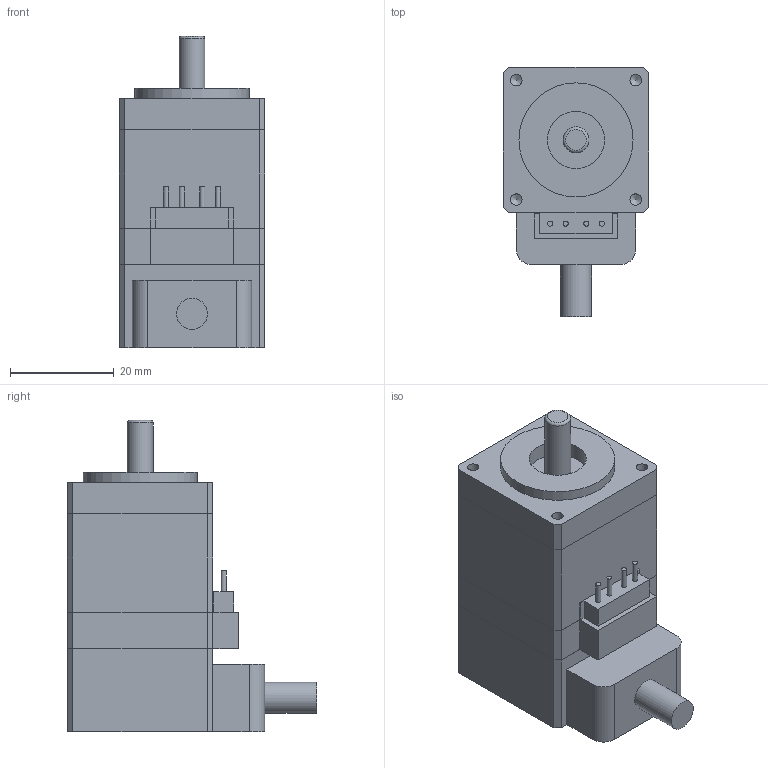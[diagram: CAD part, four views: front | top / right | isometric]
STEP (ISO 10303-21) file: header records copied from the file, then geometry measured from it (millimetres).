
FILE_DESCRIPTION(/* description */ (''),/* implementation_level */ '2;1');
FILE_NAME(/* name */ 'STP-28D1-Y17-36920.stp',/* time_stamp */ '2018-09-03T14:44:28+08:00',/* author */ (''),/* organization */ (''),/* preprocessor_version */ 'ST-DEVELOPER v11',/* originating_system */ 'SIEMENS UGS NX 6.0',/* authorisation */ '');
FILE_SCHEMA (('CONFIG_CONTROL_DESIGN'));
Length unit declared in the file: millimetre
Products named in the file (1): STP-28D1-Y17-36920
Bounding box: 28 x 48 x 60 mm (x, y, z)
Volume: 42214.5 mm3; surface area: 13396.7 mm2
Topology: 4 solids, 4 shells, 83 faces, 200 edges, 133 vertices
Faces by surface type: plane 64, cylinder 14, cone 4, torus 1
Full cylindrical faces by diameter (mm): 1 x4, 2.2 x4, 5 x1, 6 x1, 11 x1, 22 x1
Entity records: 2316 total; most frequent: CARTESIAN_POINT 384, DIRECTION 370, ORIENTED_EDGE 346, EDGE_CURVE 173, LINE 144, VECTOR 144, VERTEX_POINT 127, AXIS2_PLACEMENT_3D 113
